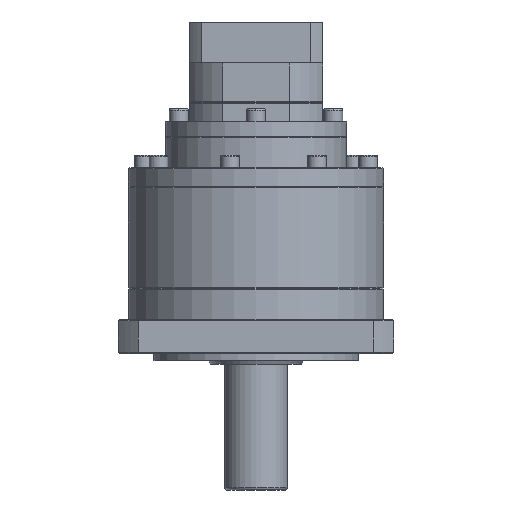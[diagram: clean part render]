
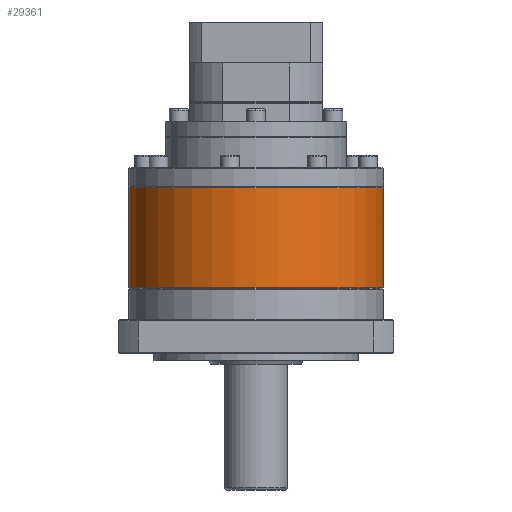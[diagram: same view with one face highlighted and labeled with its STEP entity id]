
A CAD part, front view. The second image highlights one B-rep face of the part: STEP entity #29361.
In plain terms, the highlighted cylindrical face has radius 81 mm (diameter 162 mm), a partial arc.
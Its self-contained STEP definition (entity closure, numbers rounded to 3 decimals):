
#995 = CIRCLE ( 'NONE', #111228, 81. ) ;
#2952 = CARTESIAN_POINT ( 'NONE',  ( 28.335, 62.111, -180.57 ) ) ;
#9176 = CARTESIAN_POINT ( 'NONE',  ( -52.665, 62.111, -180.07 ) ) ;
#9471 = CARTESIAN_POINT ( 'NONE',  ( 28.335, 62.111, -180.07 ) ) ;
#10668 = EDGE_CURVE ( 'NONE', #119501, #80846, #47734, .T. ) ;
#13656 = AXIS2_PLACEMENT_3D ( 'NONE', #9176, #19139, #118001 ) ;
#19139 = DIRECTION ( 'NONE',  ( 0., 0., -1. ) ) ;
#20342 = DIRECTION ( 'NONE',  ( 0., 0., -1. ) ) ;
#28184 = DIRECTION ( 'NONE',  ( 0., 0., 1. ) ) ;
#29361 = ADVANCED_FACE ( 'NONE', ( #115663 ), #103726, .T. ) ;
#33453 = CARTESIAN_POINT ( 'NONE',  ( 28.335, 62.111, -244.07 ) ) ;
#35720 = VECTOR ( 'NONE', #20342, 1000. ) ;
#40004 = EDGE_CURVE ( 'NONE', #124450, #79005, #995, .T. ) ;
#47734 = CIRCLE ( 'NONE', #64004, 81. ) ;
#48956 = EDGE_CURVE ( 'NONE', #79005, #119501, #98121, .T. ) ;
#52384 = EDGE_LOOP ( 'NONE', ( #109905, #100734, #88293, #94238 ) ) ;
#59046 = CARTESIAN_POINT ( 'NONE',  ( -52.665, 62.111, -180.57 ) ) ;
#64004 = AXIS2_PLACEMENT_3D ( 'NONE', #104979, #28184, #135659 ) ;
#65192 = CARTESIAN_POINT ( 'NONE',  ( -133.665, 62.111, -180.07 ) ) ;
#67755 = VECTOR ( 'NONE', #119367, 1000. ) ;
#69405 = LINE ( 'NONE', #9471, #35720 ) ;
#79005 = VERTEX_POINT ( 'NONE', #85732 ) ;
#80846 = VERTEX_POINT ( 'NONE', #33453 ) ;
#85732 = CARTESIAN_POINT ( 'NONE',  ( -133.665, 62.111, -180.57 ) ) ;
#88293 = ORIENTED_EDGE ( 'NONE', *, *, #48956, .T. ) ;
#94238 = ORIENTED_EDGE ( 'NONE', *, *, #10668, .T. ) ;
#95094 = EDGE_CURVE ( 'NONE', #124450, #80846, #69405, .T. ) ;
#98121 = LINE ( 'NONE', #65192, #67755 ) ;
#100734 = ORIENTED_EDGE ( 'NONE', *, *, #40004, .T. ) ;
#103726 = CYLINDRICAL_SURFACE ( 'NONE', #13656, 81. ) ;
#104979 = CARTESIAN_POINT ( 'NONE',  ( -52.665, 62.111, -244.07 ) ) ;
#109905 = ORIENTED_EDGE ( 'NONE', *, *, #95094, .F. ) ;
#111228 = AXIS2_PLACEMENT_3D ( 'NONE', #59046, #113244, #111359 ) ;
#111350 = CARTESIAN_POINT ( 'NONE',  ( -133.665, 62.111, -244.07 ) ) ;
#111359 = DIRECTION ( 'NONE',  ( -1., 0., 0. ) ) ;
#113244 = DIRECTION ( 'NONE',  ( 0., 0., -1. ) ) ;
#115663 = FACE_OUTER_BOUND ( 'NONE', #52384, .T. ) ;
#118001 = DIRECTION ( 'NONE',  ( -1., 0., 0. ) ) ;
#119367 = DIRECTION ( 'NONE',  ( 0., 0., -1. ) ) ;
#119501 = VERTEX_POINT ( 'NONE', #111350 ) ;
#124450 = VERTEX_POINT ( 'NONE', #2952 ) ;
#135659 = DIRECTION ( 'NONE',  ( -1., 0., 0. ) ) ;
